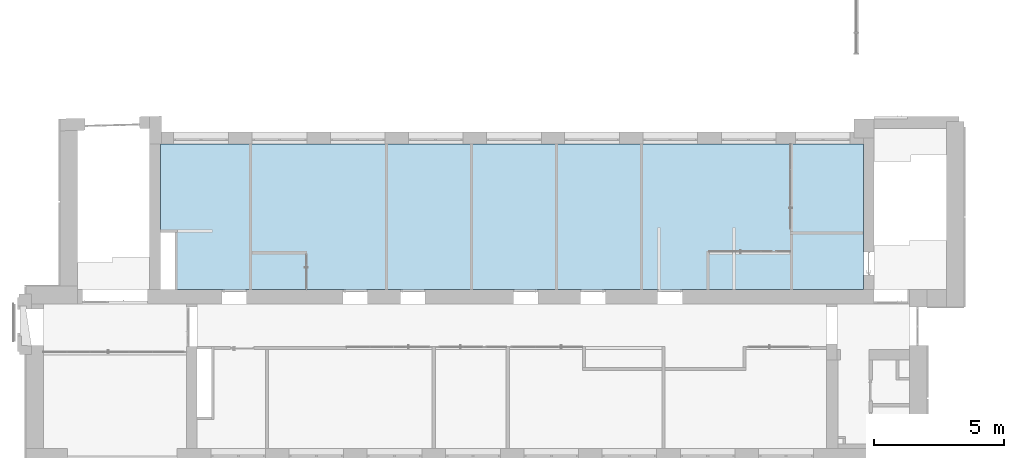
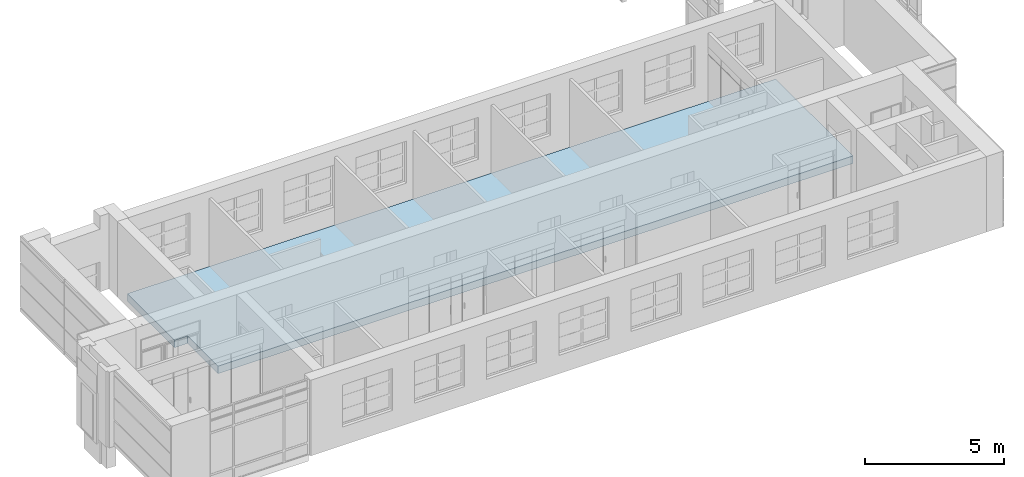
# One storey, part 30 of 73: 1 slab.
"""IFC2X3 building model written with IfcOpenShell, lengths in millimetres."""

from ifc_helpers import new_model, entity, si_unit, converted_unit, derived_unit, direction, frame, origin, place, context, subcontext, project, spatial, polyline, outline, extrude, material, layer, layer_set, layer_usage, element, save


model = new_model("IFC2X3")

# Units and contexts
model_context = context("Model", 3, precision=0.01, world=origin(), true_north=direction((6.12303176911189e-17, 1.0)))
body_context = subcontext(model_context, "Body", "Model", "MODEL_VIEW")
ifc_project = project(units=[si_unit("LENGTHUNIT", "METRE", prefix="MILLI"), si_unit("AREAUNIT", "SQUARE_METRE"), si_unit("VOLUMEUNIT", "CUBIC_METRE"), converted_unit("PLANEANGLEUNIT", "DEGREE", entity("IfcRatioMeasure", 0.0174532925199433), si_unit("PLANEANGLEUNIT", "RADIAN"), dimensions=[0, 0, 0, 0, 0, 0, 0]), si_unit("MASSUNIT", "GRAM", prefix="KILO"), derived_unit("MASSDENSITYUNIT", [(si_unit("MASSUNIT", "GRAM", prefix="KILO"), 1), (si_unit("LENGTHUNIT", "METRE"), -3)]), si_unit("TIMEUNIT", "SECOND"), si_unit("FREQUENCYUNIT", "HERTZ"), si_unit("THERMODYNAMICTEMPERATUREUNIT", "DEGREE_CELSIUS"), derived_unit("THERMALTRANSMITTANCEUNIT", [(si_unit("MASSUNIT", "GRAM", prefix="KILO"), 1), (si_unit("THERMODYNAMICTEMPERATUREUNIT", "KELVIN"), -1), (si_unit("TIMEUNIT", "SECOND"), -3)]), derived_unit("VOLUMETRICFLOWRATEUNIT", [(si_unit("LENGTHUNIT", "METRE"), 3), (si_unit("TIMEUNIT", "SECOND"), -1)]), si_unit("ELECTRICCURRENTUNIT", "AMPERE"), si_unit("ELECTRICVOLTAGEUNIT", "VOLT"), si_unit("POWERUNIT", "WATT"), si_unit("FORCEUNIT", "NEWTON", prefix="KILO"), si_unit("ILLUMINANCEUNIT", "LUX"), si_unit("LUMINOUSFLUXUNIT", "LUMEN"), si_unit("LUMINOUSINTENSITYUNIT", "CANDELA"), derived_unit("USERDEFINED", [(si_unit("MASSUNIT", "GRAM", prefix="KILO"), -1), (si_unit("LENGTHUNIT", "METRE"), -2), (si_unit("TIMEUNIT", "SECOND"), 3), (si_unit("LUMINOUSFLUXUNIT", "LUMEN"), 1)]), derived_unit("LINEARVELOCITYUNIT", [(si_unit("LENGTHUNIT", "METRE"), 1), (si_unit("TIMEUNIT", "SECOND"), -1)]), si_unit("PRESSUREUNIT", "PASCAL"), derived_unit("USERDEFINED", [(si_unit("LENGTHUNIT", "METRE"), -2), (si_unit("MASSUNIT", "GRAM", prefix="KILO"), 1), (si_unit("TIMEUNIT", "SECOND"), -2)])], contexts=[model_context])

# Site, building, storey
site_placement = place(None, frame((-151.875543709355, 2715.0, 0.0)))
site = spatial("IfcSite", under=ifc_project, at=site_placement, Name="Surface", CompositionType="ELEMENT")
building_placement = place(site_placement, origin())
building = spatial("IfcBuilding", under=site, at=building_placement, CompositionType="ELEMENT")
storey_placement = place(building_placement, frame((0.0, 0.0, 6730.43000000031)))
storey = spatial("IfcBuildingStorey", under=building, at=storey_placement, Name="3 korrus", CompositionType="ELEMENT", Elevation=6730.43000000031)

# Slab
ifc_material_1 = material(Name="Viimistlus")
ifc_layer_1 = layer(ifc_material_1, 20.0)
ifc_material_2 = material(Name="Betoon")
ifc_layer_2 = layer(ifc_material_2, 30.0)
ifc_material_3 = material(Name="Helisummutusvill")
ifc_layer_3 = layer(ifc_material_3, 30.0)
ifc_material_4 = material(Name="__Kergkruus")
ifc_layer_4 = layer(ifc_material_4, 30.0)
ifc_material_5 = material(Name="Betoon paneel")
ifc_layer_5 = layer(ifc_material_5, 220.0)
ifc_layer_set = layer_set([ifc_layer_1, ifc_layer_2, ifc_layer_3, ifc_layer_4, ifc_layer_5], Name="Floor:VL-1_vahelagi olemasolevas hoones")
ifc_layer_usage = layer_usage(ifc_layer_set, "AXIS3", "POSITIVE", 0.0)
slab_placement = place(storey_placement, origin())
element("IfcSlab", 1, at=slab_placement, inside=storey, material=ifc_layer_usage, Name="Floor:VL-1_vahelagi olemasolevas hoones", ObjectType="Floor:VL-1_vahelagi olemasolevas hoones", PredefinedType="FLOOR", context=body_context, shape_type="SweptSolid", body=[
    extrude(outline(polyline([(-396.666666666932, -9187.25180818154), (2993.33333333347, -9187.25180818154), (2993.33333333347, 17824.5525305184), (-2596.66666666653, 17824.5525305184), (-2596.66666666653, -8637.30072233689), (-396.666666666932, -8637.3007223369), (-396.666666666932, -9187.25180818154)])), frame((14148.0637376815, 9156.66666666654, 0.00203353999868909), z_axis=(0.0, 0.0, -1.0), x_axis=(0.0, 1.0, 0.0)), (0.0, 0.0, 1.0), 330.0),
])

save(model, "model.ifc")
